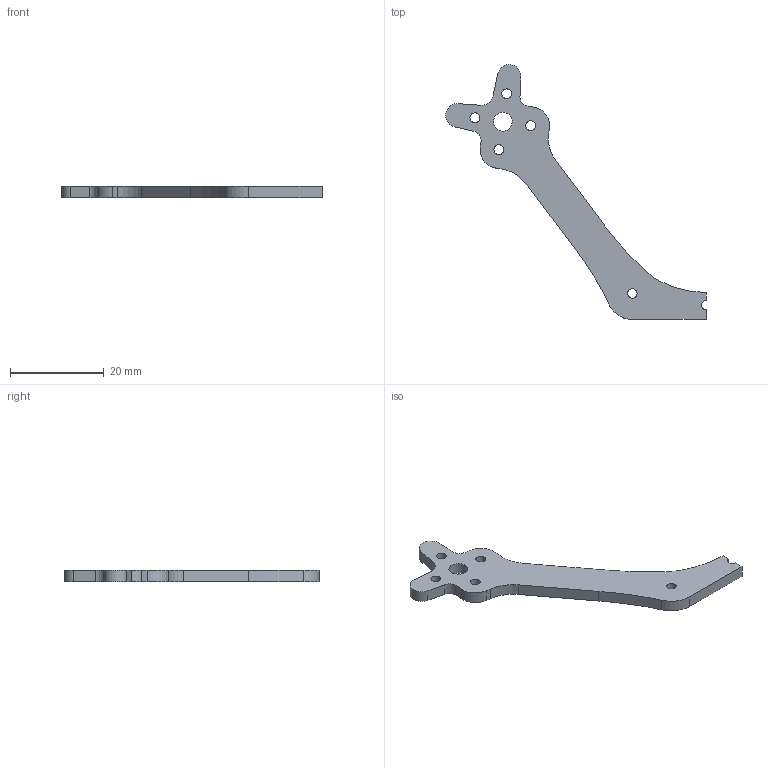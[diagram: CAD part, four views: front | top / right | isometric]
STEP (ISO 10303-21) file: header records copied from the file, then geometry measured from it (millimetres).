
FILE_DESCRIPTION(/* description */ (''),/* implementation_level */ '2;1');
FILE_NAME(/* name */ 'GoFlyPro - 3-Zoll - Arm - 12mm.step',/* time_stamp */ '2026-07-04T12:48:25+02:00',/* author */ (''),/* organization */ (''),/* preprocessor_version */ 'ST-DEVELOPER v20.1',/* originating_system */ 'Autodesk Translation Framework v15.8.0.0',/* authorisation */ '');
FILE_SCHEMA (('AUTOMOTIVE_DESIGN { 1 0 10303 214 3 1 1 }'));
Length unit declared in the file: millimetre
Products named in the file (1): GoFlyPro - 3-Zoll - Arm - 12mm
Bounding box: 55.48 x 54.24 x 2.5 mm (x, y, z)
Volume: 1628.8 mm3; surface area: 1856.9 mm2
Topology: 1 solids, 1 shells, 35 faces, 99 edges, 66 vertices
Faces by surface type: cylinder 17, plane 15, bspline 3
Full cylindrical faces by diameter (mm): 2 x1, 2.1 x4, 4 x1
Entity records: 1220 total; most frequent: CARTESIAN_POINT 216, DIRECTION 205, ORIENTED_EDGE 198, EDGE_CURVE 99, AXIS2_PLACEMENT_3D 73, VERTEX_POINT 66, LINE 59, VECTOR 59
